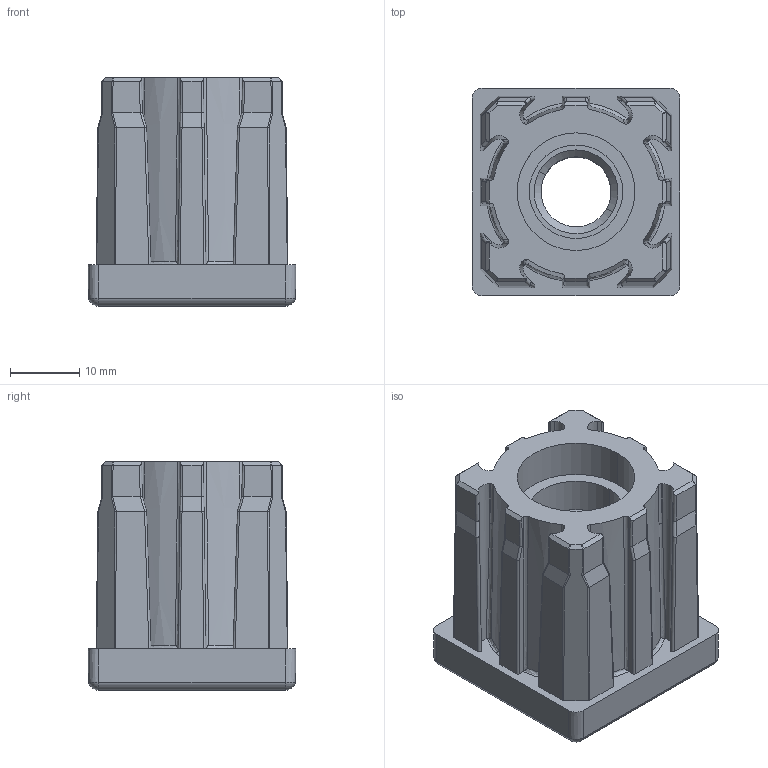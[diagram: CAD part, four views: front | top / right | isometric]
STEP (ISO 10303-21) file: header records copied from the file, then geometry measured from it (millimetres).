
FILE_DESCRIPTION(('CATIA V5 STEP Exchange'),'2;1');
FILE_NAME('C:\Users\dentellad\Desktop\P41603_01.stp','2017-02-23T10:10:32+00:00',('none'),('none'),'Version 5-6 Release 2012','CATIA V5 STEP AP203','none');
FILE_SCHEMA(('CONFIG_CONTROL_DESIGN'));
Length unit declared in the file: millimetre
Products named in the file (1): P41603_01
Assembly tree (2 placements, depth 2):
  P41603_01
    #58
    #23363
Bounding box: 30 x 30 x 33 mm (x, y, z)
Volume: 18421.4 mm3; surface area: 9965.1 mm2
Topology: 2 solids, 2 shells, 700 faces, 2010 edges, 1322 vertices
Faces by surface type: plane 534, cylinder 108, bspline 24, cone 22, torus 8, sphere 4
Entity records: 23813 total; most frequent: CARTESIAN_POINT 6440, ORIENTED_EDGE 4012, DIRECTION 2897, EDGE_CURVE 2006, VECTOR 1565, LINE 1565, VERTEX_POINT 1322, EDGE_LOOP 716
